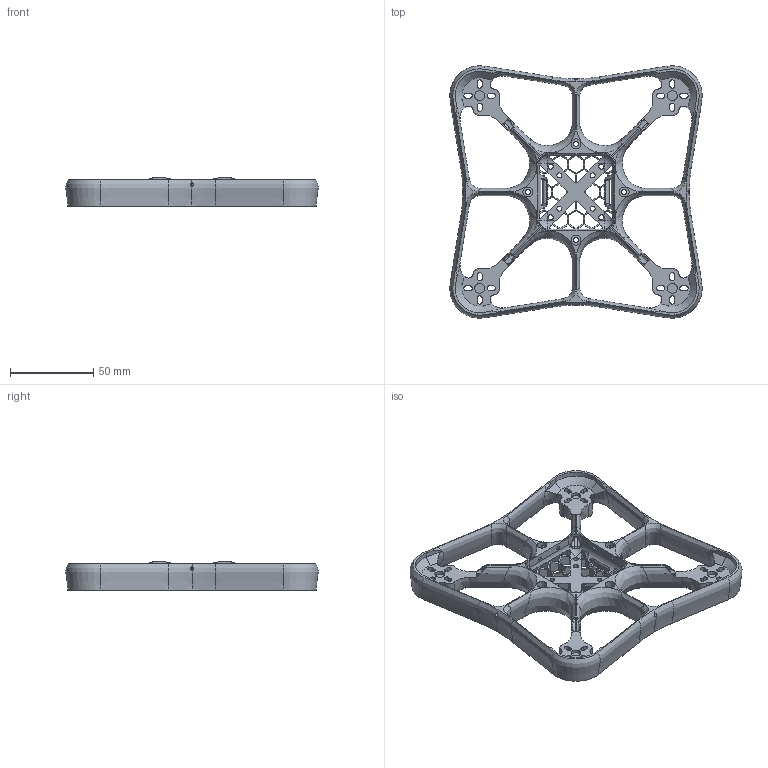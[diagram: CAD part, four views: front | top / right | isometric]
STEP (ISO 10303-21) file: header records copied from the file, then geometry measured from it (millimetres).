
FILE_DESCRIPTION(('FreeCAD Model'),'2;1');
FILE_NAME('Open CASCADE Shape Model','2023-03-16T15:32:40',(''),(''), 'Open CASCADE STEP processor 7.6','FreeCAD','Unknown');
FILE_SCHEMA(('AUTOMOTIVE_DESIGN { 1 0 10303 214 1 1 1 1 }'));
Products named in the file (1): Frame 116mm
Bounding box: 152.04 x 152.04 x 17 mm (x, y, z)
Volume: 78121.8 mm3; surface area: 51867.4 mm2
Topology: 1 solids, 1 shells, 841 faces, 2338 edges, 1468 vertices
Faces by surface type: bspline 296, plane 291, cylinder 174, cone 60, torus 16, sphere 4
Full cylindrical faces by diameter (mm): 2 x12, 3 x12, 6 x20
Entity records: 50968 total; most frequent: CARTESIAN_POINT 31542, ORIENTED_EDGE 4668, DIRECTION 3218, EDGE_CURVE 2334, VERTEX_POINT 1468, AXIS2_PLACEMENT_3D 1150, FACE_BOUND 998, EDGE_LOOP 998
